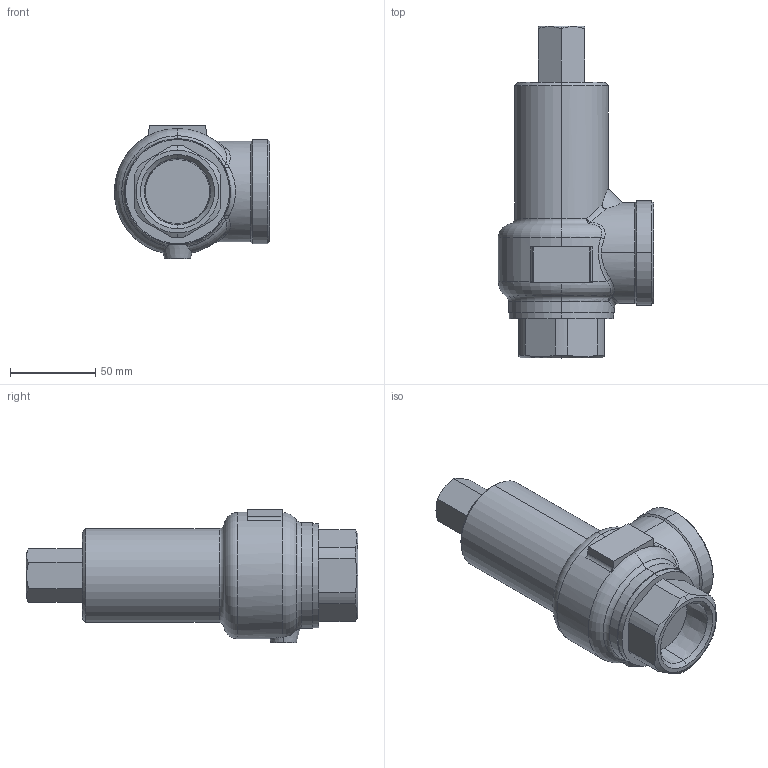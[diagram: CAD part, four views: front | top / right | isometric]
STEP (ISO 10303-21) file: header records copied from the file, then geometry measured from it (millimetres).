
FILE_DESCRIPTION (( 'STEP AP203' ), '1' );
FILE_NAME ('AL-140H 32A.STEP', '2026-01-08T06:29:08', ( '' ), ( '' ), 'SwSTEP 2.0', 'SolidWorks 2024', '' );
FILE_SCHEMA (( 'CONFIG_CONTROL_DESIGN' ));
Length unit declared in the file: millimetre
Products named in the file (1): AL-140H 32A
Bounding box: 91 x 194.5 x 78.5 mm (x, y, z)
Volume: 504529.5 mm3; surface area: 49127.2 mm2
Topology: 1 solids, 1 shells, 96 faces, 227 edges, 138 vertices
Faces by surface type: plane 26, cylinder 23, cone 20, bspline 13, torus 12, sphere 2
Entity records: 4039 total; most frequent: CARTESIAN_POINT 1835, ORIENTED_EDGE 454, DIRECTION 439, EDGE_CURVE 227, AXIS2_PLACEMENT_3D 182, VERTEX_POINT 138, EDGE_LOOP 101, CIRCLE 98
